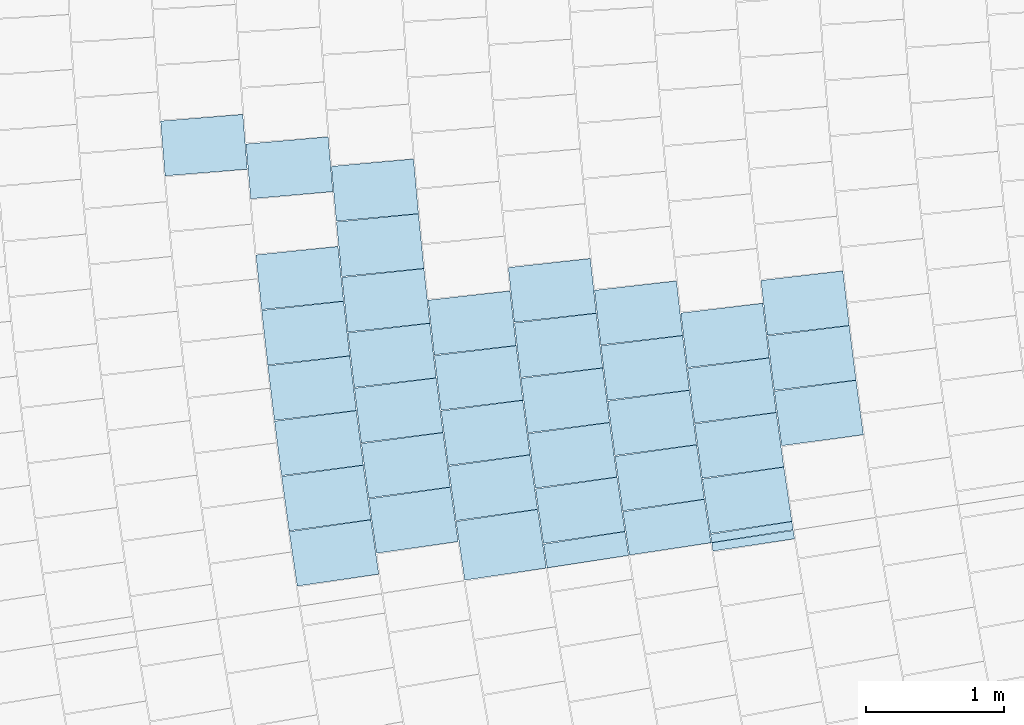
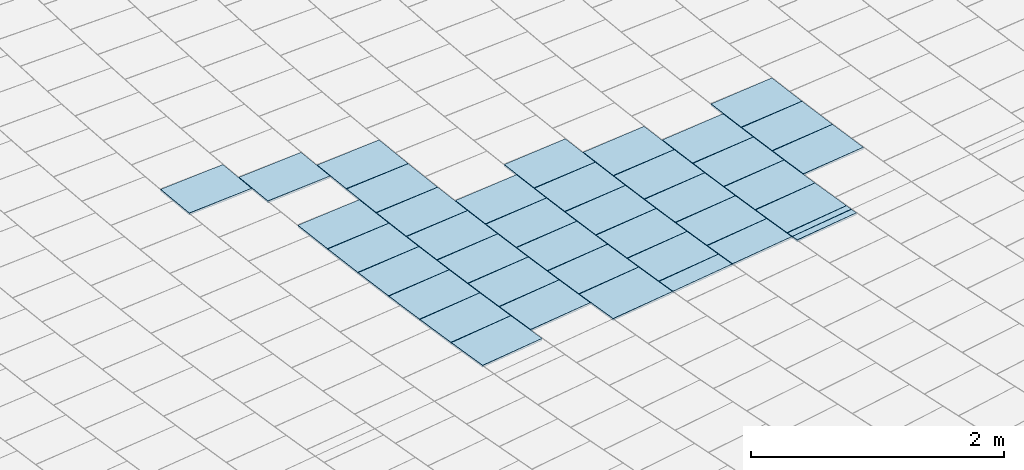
# One storey, part 80 of 438: 40 slabs.
"""IFC2X3 building model written with IfcOpenShell, lengths in millimetres."""

from ifc_helpers import new_model, entity, si_unit, converted_unit, derived_unit, direction, frame, frame_2d, origin, place, context, subcontext, project, spatial, polyline, rectangle, outline, extrude, material, layer, layer_set, layer_usage, type_object, element, save


model = new_model("IFC2X3")

# Units and contexts
model_context = context("Model", 3, precision=0.01, world=origin(), true_north=direction((6.123031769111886e-17, 1.0)))
body_context = subcontext(model_context, "Body", "Model", "MODEL_VIEW")
ifc_project = project(units=[si_unit("LENGTHUNIT", "METRE", prefix="MILLI"), si_unit("AREAUNIT", "SQUARE_METRE"), si_unit("VOLUMEUNIT", "CUBIC_METRE"), converted_unit("PLANEANGLEUNIT", "DEGREE", entity("IfcRatioMeasure", 0.017453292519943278), si_unit("PLANEANGLEUNIT", "RADIAN"), dimensions=[0, 0, 0, 0, 0, 0, 0]), si_unit("MASSUNIT", "GRAM", prefix="KILO"), derived_unit("MASSDENSITYUNIT", [(si_unit("MASSUNIT", "GRAM", prefix="KILO"), 1), (si_unit("LENGTHUNIT", "METRE"), -3)]), derived_unit("MOMENTOFINERTIAUNIT", [(si_unit("LENGTHUNIT", "METRE"), 4)]), si_unit("TIMEUNIT", "SECOND"), si_unit("FREQUENCYUNIT", "HERTZ"), si_unit("THERMODYNAMICTEMPERATUREUNIT", "DEGREE_CELSIUS"), derived_unit("THERMALTRANSMITTANCEUNIT", [(si_unit("MASSUNIT", "GRAM", prefix="KILO"), 1), (si_unit("THERMODYNAMICTEMPERATUREUNIT", "KELVIN"), -1), (si_unit("TIMEUNIT", "SECOND"), -3)]), derived_unit("THERMALCONDUCTANCEUNIT", [(si_unit("MASSUNIT", "GRAM", prefix="KILO"), 1), (si_unit("LENGTHUNIT", "METRE"), 1), (si_unit("THERMODYNAMICTEMPERATUREUNIT", "KELVIN"), -1), (si_unit("TIMEUNIT", "SECOND"), -3)]), derived_unit("VOLUMETRICFLOWRATEUNIT", [(si_unit("LENGTHUNIT", "METRE"), 3), (si_unit("TIMEUNIT", "SECOND"), -1)]), derived_unit("MASSFLOWRATEUNIT", [(si_unit("MASSUNIT", "GRAM", prefix="KILO"), 1), (si_unit("TIMEUNIT", "SECOND"), -1)]), derived_unit("ROTATIONALFREQUENCYUNIT", [(si_unit("TIMEUNIT", "SECOND"), -1)]), si_unit("ELECTRICCURRENTUNIT", "AMPERE"), si_unit("ELECTRICVOLTAGEUNIT", "VOLT"), si_unit("POWERUNIT", "WATT"), converted_unit("FORCEUNIT", "KIP", entity("IfcRatioMeasure", 2.088543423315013e-05), si_unit("FORCEUNIT", "NEWTON"), dimensions=[1, 1, -2, 0, 0, 0, 0]), si_unit("ILLUMINANCEUNIT", "LUX"), si_unit("LUMINOUSFLUXUNIT", "LUMEN"), si_unit("LUMINOUSINTENSITYUNIT", "CANDELA"), derived_unit("USERDEFINED", [(si_unit("MASSUNIT", "GRAM", prefix="KILO"), -1), (si_unit("LENGTHUNIT", "METRE"), -2), (si_unit("TIMEUNIT", "SECOND"), 3), (si_unit("LUMINOUSFLUXUNIT", "LUMEN"), 1)]), derived_unit("USERDEFINED", [(si_unit("MASSUNIT", "GRAM", prefix="KILO"), 1), (si_unit("LENGTHUNIT", "METRE"), 3), (si_unit("TIMEUNIT", "SECOND"), -3), (si_unit("ELECTRICCURRENTUNIT", "AMPERE"), -2)]), derived_unit("USERDEFINED", [(si_unit("LENGTHUNIT", "METRE"), 2), (si_unit("TIMEUNIT", "SECOND"), -2)]), derived_unit("SOUNDPOWERUNIT", [(si_unit("MASSUNIT", "GRAM", prefix="KILO"), 1), (si_unit("LENGTHUNIT", "METRE"), 2), (si_unit("TIMEUNIT", "SECOND"), -3)]), derived_unit("SOUNDPRESSUREUNIT", [(si_unit("MASSUNIT", "GRAM", prefix="KILO"), 1), (si_unit("LENGTHUNIT", "METRE"), -1), (si_unit("TIMEUNIT", "SECOND"), -2)]), derived_unit("LINEARVELOCITYUNIT", [(si_unit("LENGTHUNIT", "METRE"), 1), (si_unit("TIMEUNIT", "SECOND"), -1)]), si_unit("PRESSUREUNIT", "PASCAL"), derived_unit("USERDEFINED", [(si_unit("LENGTHUNIT", "METRE"), -2), (si_unit("MASSUNIT", "GRAM", prefix="KILO"), 1), (si_unit("TIMEUNIT", "SECOND"), -2)]), derived_unit("LINEARFORCEUNIT", [(si_unit("MASSUNIT", "GRAM", prefix="KILO"), 1), (si_unit("LENGTHUNIT", "METRE"), 1), (si_unit("TIMEUNIT", "SECOND"), -2), (si_unit("LENGTHUNIT", "METRE"), -1)]), derived_unit("PLANARFORCEUNIT", [(si_unit("MASSUNIT", "GRAM", prefix="KILO"), 1), (si_unit("LENGTHUNIT", "METRE"), 1), (si_unit("TIMEUNIT", "SECOND"), -2), (si_unit("LENGTHUNIT", "METRE"), -2)]), derived_unit("SPECIFICHEATCAPACITYUNIT", [(si_unit("LENGTHUNIT", "METRE"), 2), (si_unit("TIMEUNIT", "SECOND"), -2), (si_unit("THERMODYNAMICTEMPERATUREUNIT", "KELVIN"), -1)]), derived_unit("VAPORPERMEABILITYUNIT", [(si_unit("TIMEUNIT", "SECOND"), 1), (si_unit("LENGTHUNIT", "METRE"), -1)]), derived_unit("DYNAMICVISCOSITYUNIT", [(si_unit("MASSUNIT", "GRAM", prefix="KILO"), 1), (si_unit("LENGTHUNIT", "METRE"), -1), (si_unit("TIMEUNIT", "SECOND"), -1)]), derived_unit("THERMALEXPANSIONCOEFFICIENTUNIT", [(si_unit("THERMODYNAMICTEMPERATUREUNIT", "KELVIN"), -1)])], contexts=[model_context])

# Site, building, storey
site_placement = place(None, frame((0.0, 0.0, 0.0), z_axis=(0.0, 0.0, 1.0), x_axis=(0.8191520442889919, 0.5735764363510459, 0.0)))
site = spatial("IfcSite", under=ifc_project, at=site_placement, Name="Default", CompositionType="ELEMENT")
building_placement = place(site_placement, origin())
building = spatial("IfcBuilding", under=site, at=building_placement, CompositionType="ELEMENT")
storey_placement = place(building_placement, origin())
storey = spatial("IfcBuildingStorey", under=building, at=storey_placement, Name="PLAN", CompositionType="ELEMENT", Elevation=0.0)

# Slabs
ifc_material = material(Name="Paint-01")
ifc_layer = layer(ifc_material, 20.00000000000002)
ifc_layer_set = layer_set([ifc_layer], Name="Floor:Slab-179:1000")
ifc_layer_usage = layer_usage(ifc_layer_set, "AXIS3", "POSITIVE", 0.0)
slab_type = type_object("IfcSlabType", Name="Floor:Slab-179:1000", PredefinedType="FLOOR", material=ifc_layer_set)
slab_1_placement = place(storey_placement, origin())
element("IfcSlab", 1, at=slab_1_placement, inside=storey, type_object=slab_type, material=ifc_layer_usage, Name="Floor:Slab-179:1000", ObjectType="Floor:Slab-179:1000", PredefinedType="FLOOR", context=body_context, shape_type="SweptSolid", body=[
    extrude(outline(polyline([(-299.99999852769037, -30.948559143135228), (299.9999988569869, -30.948559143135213), (299.9999985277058, 30.948559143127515), (-299.99999885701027, 30.948559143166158), (-299.99999852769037, -30.948559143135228)])), frame((-80044.76287253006, -48380.83155727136, 520.0), z_axis=(0.0, 0.0, -1.0), x_axis=(0.8953786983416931, -0.44530549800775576, 0.0)), (0.0, 0.0, 1.0), 20.000000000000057),
])
slab_2_placement = place(storey_placement, origin())
element("IfcSlab", 2, at=slab_2_placement, inside=storey, type_object=slab_type, material=ifc_layer_usage, Name="Floor:Slab-179:1000", ObjectType="Floor:Slab-179:1000", PredefinedType="FLOOR", context=body_context, shape_type="SweptSolid", body=[
    extrude(outline(polyline([(-300.0, -200.00000294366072), (299.9999976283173, -200.00000294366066), (300.0, 200.00000294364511), (-299.9999976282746, 200.00000294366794), (-300.0, -200.00000294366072)])), frame((-80763.96085324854, -47119.79595773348, 520.0), z_axis=(0.0, 0.0, -1.0), x_axis=(0.8890271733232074, -0.4578544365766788, 0.0)), (0.0, 0.0, 1.0), 20.000000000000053),
])
slab_3_placement = place(storey_placement, origin())
element("IfcSlab", 3, at=slab_3_placement, inside=storey, type_object=slab_type, material=ifc_layer_usage, Name="Floor:Slab-179:1000", ObjectType="Floor:Slab-179:1000", PredefinedType="FLOOR", context=body_context, shape_type="SweptSolid", body=[
    extrude(outline(polyline([(-300.0, -200.00000294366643), (299.99999762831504, -200.00000294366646), (300.0, 200.00000294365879), (-299.99999762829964, 200.00000294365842), (-300.0, -200.00000294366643)])), frame((-80578.02261181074, -46762.64722861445, 520.0), z_axis=(0.0, 0.0, -1.0), x_axis=(0.884939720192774, -0.46570558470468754, 0.0)), (0.0, 0.0, 1.0), 20.000000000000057),
])
slab_4_placement = place(storey_placement, origin())
element("IfcSlab", 4, at=slab_4_placement, inside=storey, type_object=slab_type, material=ifc_layer_usage, Name="Floor:Slab-179:1000", ObjectType="Floor:Slab-179:1000", PredefinedType="FLOOR", context=body_context, shape_type="SweptSolid", body=[
    extrude(outline(polyline([(-300.0, -200.00000294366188), (299.9999976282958, -200.00000294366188), (300.0, 200.00000294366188), (-299.9999976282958, 200.00000294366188), (-300.0, -200.00000294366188)])), frame((-80196.69905841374, -46053.35700409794, 520.0), z_axis=(0.0, 0.0, -1.0), x_axis=(0.8765571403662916, -0.48129780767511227, 0.0)), (0.0, 0.0, 1.0), 20.000000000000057),
])
slab_5_placement = place(storey_placement, origin())
element("IfcSlab", 5, at=slab_5_placement, inside=storey, type_object=slab_type, material=ifc_layer_usage, Name="Floor:Slab-179:1000", ObjectType="Floor:Slab-179:1000", PredefinedType="FLOOR", context=body_context, shape_type="SweptSolid", body=[
    extrude(outline(polyline([(-300.0, -200.00000294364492), (299.9999976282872, -200.00000294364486), (300.0, 200.00000294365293), (-299.9999976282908, 200.0000029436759), (-300.0, -200.00000294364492)])), frame((-81372.78201643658, -46981.15106468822, 520.0), z_axis=(0.0, 0.0, -1.0), x_axis=(0.8905665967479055, -0.45485287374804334, 0.0)), (0.0, 0.0, 1.0), 20.000000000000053),
])
slab_6_placement = place(storey_placement, origin())
element("IfcSlab", 6, at=slab_6_placement, inside=storey, type_object=slab_type, material=ifc_layer_usage, Name="Floor:Slab-179:1000", ObjectType="Floor:Slab-179:1000", PredefinedType="FLOOR", context=body_context, shape_type="SweptSolid", body=[
    extrude(outline(polyline([(-300.0, -215.73772442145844), (299.9999975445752, -215.73772442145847), (300.0, 215.7377244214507), (-299.99999754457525, 215.7377244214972), (-300.0, -215.73772442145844)])), frame((-81561.3813098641, -47354.5817457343, 520.0), z_axis=(0.0, 0.0, -1.0), x_axis=(0.8945054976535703, -0.4470569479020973, 0.0)), (0.0, 0.0, 1.0), 20.000000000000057),
])
slab_7_placement = place(storey_placement, origin())
element("IfcSlab", 7, at=slab_7_placement, inside=storey, type_object=slab_type, material=ifc_layer_usage, Name="Floor:Slab-179:1000", ObjectType="Floor:Slab-179:1000", PredefinedType="FLOOR", context=body_context, shape_type="SweptSolid", body=[
    extrude(outline(polyline([(-300.0, -200.0000029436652), (299.9999976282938, -200.00000294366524), (300.0, 200.00000294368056), (-299.99999762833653, 200.00000294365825), (-300.0, -200.0000029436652)])), frame((-81188.08656777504, -46623.397421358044, 520.0), z_axis=(0.0, 0.0, -1.0), x_axis=(0.8865597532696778, -0.46261409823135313, 0.0)), (0.0, 0.0, 1.0), 20.000000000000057),
])
slab_8_placement = place(storey_placement, origin())
element("IfcSlab", 8, at=slab_8_placement, inside=storey, type_object=slab_type, material=ifc_layer_usage, Name="Floor:Slab-179:1000", ObjectType="Floor:Slab-179:1000", PredefinedType="FLOOR", context=body_context, shape_type="SweptSolid", body=[
    extrude(outline(polyline([(-300.0, -200.00000294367), (299.9999976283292, -200.00000294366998), (300.0, 200.00000294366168), (-299.99999762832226, 200.00000294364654), (-300.0, -200.00000294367)])), frame((-80809.35683233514, -45912.79786257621, 520.0), z_axis=(0.0, 0.0, -1.0), x_axis=(0.8783434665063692, -0.4780300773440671, 0.0)), (0.0, 0.0, 1.0), 20.000000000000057),
])
slab_9_placement = place(storey_placement, origin())
element("IfcSlab", 9, at=slab_9_placement, inside=storey, type_object=slab_type, material=ifc_layer_usage, Name="Floor:Slab-179:1000", ObjectType="Floor:Slab-179:1000", PredefinedType="FLOOR", context=body_context, shape_type="SweptSolid", body=[
    extrude(outline(polyline([(-300.0, -200.00000294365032), (299.99999762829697, -200.00000294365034), (300.0, 200.0000029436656), (-299.999997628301, 200.0000029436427), (-300.0, -200.00000294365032)])), frame((-81000.27339689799, -46267.27063085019, 520.0), z_axis=(0.0, 0.0, -1.0), x_axis=(0.8824852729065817, -0.4703400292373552, 0.0)), (0.0, 0.0, 1.0), 20.000000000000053),
])
slab_10_placement = place(storey_placement, origin())
element("IfcSlab", 10, at=slab_10_placement, inside=storey, type_object=slab_type, material=ifc_layer_usage, Name="Floor:Slab-179:1000", ObjectType="Floor:Slab-179:1000", PredefinedType="FLOOR", context=body_context, shape_type="SweptSolid", body=[
    extrude(outline(polyline([(-300.0, -200.00000294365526), (299.9999976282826, -200.0000029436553), (300.0, 200.00000294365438), (-299.9999976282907, 200.00000294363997), (-300.0, -200.00000294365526)])), frame((-81611.08765067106, -46127.63286458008, 520.0), z_axis=(0.0, 0.0, -1.0), x_axis=(0.8841321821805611, -0.46723686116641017, 0.0)), (0.0, 0.0, 1.0), 20.000000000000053),
])
slab_11_placement = place(storey_placement, origin())
element("IfcSlab", 11, at=slab_11_placement, inside=storey, type_object=slab_type, material=ifc_layer_usage, Name="Floor:Slab-179:1000", ObjectType="Floor:Slab-179:1000", PredefinedType="FLOOR", context=body_context, shape_type="SweptSolid", body=[
    extrude(outline(polyline([(-300.0, -200.00000294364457), (299.9999976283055, -200.00000294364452), (300.0, 200.0000029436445), (-299.99999762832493, 200.00000294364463), (-300.0, -200.00000294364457)])), frame((-81981.13625780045, -46842.71507963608, 520.0), z_axis=(0.0, 0.0, -1.0), x_axis=(0.8920561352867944, -0.4519246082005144, 0.0)), (0.0, 0.0, 1.0), 20.000000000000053),
])
slab_12_placement = place(storey_placement, origin())
element("IfcSlab", 12, at=slab_12_placement, inside=storey, type_object=slab_type, material=ifc_layer_usage, Name="Floor:Slab-179:1000", ObjectType="Floor:Slab-179:1000", PredefinedType="FLOOR", context=body_context, shape_type="SweptSolid", body=[
    extrude(outline(polyline([(-300.0, -200.00000294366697), (299.99999762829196, -200.00000294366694), (300.0, 200.00000294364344), (-299.9999976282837, 200.00000294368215), (-300.0, -200.00000294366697)])), frame((-81421.45383524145, -45772.51082410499, 520.0), z_axis=(0.0, 0.0, -1.0), x_axis=(0.8800715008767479, -0.47484118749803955, 0.0)), (0.0, 0.0, 1.0), 19.99999999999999),
])
slab_13_placement = place(storey_placement, origin())
element("IfcSlab", 13, at=slab_13_placement, inside=storey, type_object=slab_type, material=ifc_layer_usage, Name="Floor:Slab-179:1000", ObjectType="Floor:Slab-179:1000", PredefinedType="FLOOR", context=body_context, shape_type="SweptSolid", body=[
    extrude(outline(polyline([(-300.0, -200.00000294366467), (299.9999976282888, -200.00000294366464), (300.0, 200.00000294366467), (-299.999997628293, 200.00000294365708), (-300.0, -200.00000294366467)])), frame((-81033.0376427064, -45067.236829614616, 520.0), z_axis=(0.0, 0.0, -1.0), x_axis=(0.8717542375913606, -0.4899434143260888, 0.0)), (0.0, 0.0, 1.0), 19.99999999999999),
])
slab_14_placement = place(storey_placement, origin())
element("IfcSlab", 14, at=slab_14_placement, inside=storey, type_object=slab_type, material=ifc_layer_usage, Name="Floor:Slab-179:1000", ObjectType="Floor:Slab-179:1000", PredefinedType="FLOOR", context=body_context, shape_type="SweptSolid", body=[
    extrude(outline(polyline([(-300.0, -200.00000294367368), (299.99999762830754, -200.00000294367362), (300.0, 200.0000029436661), (-299.99999762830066, 200.0000029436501), (-300.0, -200.00000294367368)])), frame((-81228.76572605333, -45419.03672298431, 520.0), z_axis=(0.0, 0.0, -1.0), x_axis=(0.8759454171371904, -0.4824102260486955, 0.0)), (0.0, 0.0, 1.0), 20.000000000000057),
])
slab_15_placement = place(storey_placement, origin())
element("IfcSlab", 15, at=slab_15_placement, inside=storey, type_object=slab_type, material=ifc_layer_usage, Name="Floor:Slab-179:1000", ObjectType="Floor:Slab-179:1000", PredefinedType="FLOOR", context=body_context, shape_type="SweptSolid", body=[
    extrude(outline(polyline([(-300.0, -200.00000294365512), (299.9999976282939, -200.00000294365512), (300.0, 200.00000294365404), (-299.9999976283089, 200.0000029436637), (-300.0, -200.00000294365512)])), frame((-80834.28413071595, -44717.1372879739, 520.0), z_axis=(0.0, 0.0, -1.0), x_axis=(0.8674982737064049, -0.4974401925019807, 0.0)), (0.0, 0.0, 1.0), 20.000000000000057),
])
slab_16_placement = place(storey_placement, origin())
element("IfcSlab", 16, at=slab_16_placement, inside=storey, type_object=slab_type, material=ifc_layer_usage, Name="Floor:Slab-179:1000", ObjectType="Floor:Slab-179:1000", PredefinedType="FLOOR", context=body_context, shape_type="SweptSolid", body=[
    extrude(outline(polyline([(-300.0, -200.000002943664), (299.99999762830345, -200.000002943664), (300.0, 200.000002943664), (-299.9999976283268, 200.00000294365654), (-300.0, -200.000002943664)])), frame((-81797.65307972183, -46484.37645354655, 520.0), z_axis=(0.0, 0.0, -1.0), x_axis=(0.8881271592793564, -0.4595978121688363, 0.0)), (0.0, 0.0, 1.0), 20.000000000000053),
])
slab_17_placement = place(storey_placement, origin())
element("IfcSlab", 17, at=slab_17_placement, inside=storey, type_object=slab_type, material=ifc_layer_usage, Name="Floor:Slab-179:1000", ObjectType="Floor:Slab-179:1000", PredefinedType="FLOOR", context=body_context, shape_type="SweptSolid", body=[
    extrude(outline(polyline([(-300.0, -200.00000294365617), (299.99999762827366, -200.00000294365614), (300.0, 200.00000294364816), (-299.99999762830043, 200.00000294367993), (-300.0, -200.00000294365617)])), frame((-79544.84355866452, -47397.7537906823, 520.0), z_axis=(0.0, 0.0, -1.0), x_axis=(0.8857888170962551, -0.4640885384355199, 0.0)), (0.0, 0.0, 1.0), 20.000000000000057),
])
slab_18_placement = place(storey_placement, origin())
element("IfcSlab", 18, at=slab_18_placement, inside=storey, type_object=slab_type, material=ifc_layer_usage, Name="Floor:Slab-179:1000", ObjectType="Floor:Slab-179:1000", PredefinedType="FLOOR", context=body_context, shape_type="SweptSolid", body=[
    extrude(outline(polyline([(-300.0, -200.00000294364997), (299.99999762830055, -200.00000294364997), (300.0, 200.00000294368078), (-299.9999976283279, 200.00000294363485), (-300.0, -200.00000294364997)])), frame((-79121.17096761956, -47894.194047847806, 520.0), z_axis=(0.0, 0.0, -1.0), x_axis=(0.8883584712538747, -0.459150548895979, 0.0)), (0.0, 0.0, 1.0), 20.000000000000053),
])
slab_19_placement = place(storey_placement, origin())
element("IfcSlab", 19, at=slab_19_placement, inside=storey, type_object=slab_type, material=ifc_layer_usage, Name="Floor:Slab-179:1000", ObjectType="Floor:Slab-179:1000", PredefinedType="FLOOR", context=body_context, shape_type="SweptSolid", body=[
    extrude(outline(polyline([(-300.0, -200.0000029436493), (299.99999762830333, -200.00000294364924), (300.0, 200.00000294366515), (-299.99999762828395, 200.00000294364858), (-300.0, -200.0000029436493)])), frame((-79777.03806132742, -46547.30804186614, 520.0), z_axis=(0.0, 0.0, -1.0), x_axis=(0.8790224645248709, -0.47678035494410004, 0.0)), (0.0, 0.0, 1.0), 20.000000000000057),
])
slab_20_placement = place(storey_placement, origin())
element("IfcSlab", 20, at=slab_20_placement, inside=storey, type_object=slab_type, material=ifc_layer_usage, Name="Floor:Slab-179:1000", ObjectType="Floor:Slab-179:1000", PredefinedType="FLOOR", context=body_context, shape_type="SweptSolid", body=[
    extrude(outline(polyline([(-300.0, -200.00000294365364), (299.99999762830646, -200.00000294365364), (300.0, 200.00000294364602), (-299.9999976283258, 200.00000294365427), (-300.0, -200.00000294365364)])), frame((-78744.71256373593, -47182.00731968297, 520.0), z_axis=(0.0, 0.0, -1.0), x_axis=(0.8797389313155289, -0.47545705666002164, 0.0)), (0.0, 0.0, 1.0), 19.99999999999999),
])
slab_21_placement = place(storey_placement, origin())
element("IfcSlab", 21, at=slab_21_placement, inside=storey, type_object=slab_type, material=ifc_layer_usage, Name="Floor:Slab-179:1000", ObjectType="Floor:Slab-179:1000", PredefinedType="FLOOR", context=body_context, shape_type="SweptSolid", body=[
    extrude(outline(polyline([(-300.0, -200.0000029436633), (299.9999976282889, -200.0000029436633), (300.0, 200.0000029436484), (-299.99999762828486, 200.00000294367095), (-300.0, -200.0000029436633)])), frame((-78934.58378939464, -47537.2327180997, 520.0), z_axis=(0.0, 0.0, -1.0), x_axis=(0.8840862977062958, -0.46732367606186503, 0.0)), (0.0, 0.0, 1.0), 20.000000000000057),
])
slab_22_placement = place(storey_placement, origin())
element("IfcSlab", 22, at=slab_22_placement, inside=storey, type_object=slab_type, material=ifc_layer_usage, Name="Floor:Slab-179:1000", ObjectType="Floor:Slab-179:1000", PredefinedType="FLOOR", context=body_context, shape_type="SweptSolid", body=[
    extrude(outline(polyline([(-300.0, -200.00000294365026), (299.9999976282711, -200.00000294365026), (300.0, 200.00000294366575), (-299.999997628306, 200.00000294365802), (-300.0, -200.00000294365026)])), frame((-79912.13501999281, -48114.57398447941, 520.0), z_axis=(0.0, 0.0, -1.0), x_axis=(0.8940835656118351, -0.4479001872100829, 0.0)), (0.0, 0.0, 1.0), 20.000000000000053),
])
slab_23_placement = place(storey_placement, origin())
element("IfcSlab", 23, at=slab_23_placement, inside=storey, type_object=slab_type, material=ifc_layer_usage, Name="Floor:Slab-179:1000", ObjectType="Floor:Slab-179:1000", PredefinedType="FLOOR", context=body_context, shape_type="SweptSolid", body=[
    extrude(outline(polyline([(-299.9999988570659, -30.956220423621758), (299.99999852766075, -30.956220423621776), (299.99999885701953, 30.956220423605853), (-299.99999852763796, 30.956220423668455), (-299.9999988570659, -30.956220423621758)])), frame((-80016.53904183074, -48323.63813225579, 520.0), z_axis=(0.0, 0.0, -1.0), x_axis=(0.8981201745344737, -0.43975010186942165, 0.0)), (0.0, 0.0, 1.0), 19.999999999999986),
])
slab_24_placement = place(storey_placement, origin())
element("IfcSlab", 24, at=slab_24_placement, inside=storey, type_object=slab_type, material=ifc_layer_usage, Name="Floor:Slab-179:1000", ObjectType="Floor:Slab-179:1000", PredefinedType="FLOOR", context=body_context, shape_type="SweptSolid", body=[
    extrude(outline(polyline([(-300.0, -200.00000294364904), (299.9999976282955, -200.000002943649), (300.0, 200.0000029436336), (-299.9999976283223, 200.0000029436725), (-300.0, -200.00000294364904)])), frame((-79730.11916701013, -47755.328754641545, 520.0), z_axis=(0.0, 0.0, -1.0), x_axis=(0.8899729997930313, -0.45601322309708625, 0.0)), (0.0, 0.0, 1.0), 19.99999999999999),
])
slab_25_placement = place(storey_placement, origin())
element("IfcSlab", 25, at=slab_25_placement, inside=storey, type_object=slab_type, material=ifc_layer_usage, Name="Floor:Slab-179:1000", ObjectType="Floor:Slab-179:1000", PredefinedType="FLOOR", context=body_context, shape_type="SweptSolid", body=[
    extrude(outline(polyline([(-300.0, -200.00000294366), (299.9999976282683, -200.00000294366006), (300.0, 200.00000294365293), (-299.9999976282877, 200.00000294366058), (-300.0, -200.00000294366)])), frame((-79356.32352060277, -47041.878670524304, 520.0), z_axis=(0.0, 0.0, -1.0), x_axis=(0.8815313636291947, -0.47212546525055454, 0.0)), (0.0, 0.0, 1.0), 20.000000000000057),
])
slab_26_placement = place(storey_placement, origin())
element("IfcSlab", 26, at=slab_26_placement, inside=storey, type_object=slab_type, material=ifc_layer_usage, Name="Floor:Slab-179:1000", ObjectType="Floor:Slab-179:1000", PredefinedType="FLOOR", context=body_context, shape_type="SweptSolid", body=[
    extrude(outline(polyline([(-300.0, -159.83571271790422), (299.9999978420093, -159.83571271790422), (300.0, 159.83571271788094), (-299.9999978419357, 159.83571271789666), (-300.0, -159.83571271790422)])), frame((-80501.57636352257, -47940.702927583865, 520.0), z_axis=(0.0, 0.0, -1.0), x_axis=(0.8955627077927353, -0.44493531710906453, 0.0)), (0.0, 0.0, 1.0), 20.000000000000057),
])
slab_27_placement = place(storey_placement, origin())
element("IfcSlab", 27, at=slab_27_placement, inside=storey, type_object=slab_type, material=ifc_layer_usage, Name="Floor:Slab-179:1000", ObjectType="Floor:Slab-179:1000", PredefinedType="FLOOR", context=body_context, shape_type="SweptSolid", body=[
    extrude(outline(polyline([(-300.0, -200.00000294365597), (299.99999762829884, -200.00000294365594), (300.0, 200.00000294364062), (-299.99999762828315, 200.00000294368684), (-300.0, -200.00000294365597)])), frame((-80338.66110267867, -47616.84805389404, 520.0), z_axis=(0.0, 0.0, -1.0), x_axis=(0.8915349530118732, -0.45295190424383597, 0.0)), (0.0, 0.0, 1.0), 20.000000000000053),
])
slab_28_placement = place(storey_placement, origin())
element("IfcSlab", 28, at=slab_28_placement, inside=storey, type_object=slab_type, material=ifc_layer_usage, Name="Floor:Slab-179:1000", ObjectType="Floor:Slab-179:1000", PredefinedType="FLOOR", context=body_context, shape_type="SweptSolid", body=[
    extrude(outline(polyline([(-300.0, -200.0000029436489), (299.9999976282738, -200.00000294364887), (300.0, 200.00000294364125), (-299.99999762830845, 200.00000294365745), (-300.0, -200.0000029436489)])), frame((-79967.44175663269, -46902.13702773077, 520.0), z_axis=(0.0, 0.0, -1.0), x_axis=(0.8832644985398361, -0.46887506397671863, 0.0)), (0.0, 0.0, 1.0), 19.999999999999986),
])
slab_29_placement = place(storey_placement, origin())
element("IfcSlab", 29, at=slab_29_placement, inside=storey, type_object=slab_type, material=ifc_layer_usage, Name="Floor:Slab-179:1000", ObjectType="Floor:Slab-179:1000", PredefinedType="FLOOR", context=body_context, shape_type="SweptSolid", body=[
    extrude(outline(polyline([(-300.0, -200.00000294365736), (299.9999976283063, -200.00000294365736), (300.0, 200.00000294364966), (-299.9999976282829, 200.00000294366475), (-300.0, -200.00000294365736)])), frame((-80154.65445990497, -47258.659930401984, 520.0), z_axis=(0.0, 0.0, -1.0), x_axis=(0.8874354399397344, -0.4609320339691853, 0.0)), (0.0, 0.0, 1.0), 20.000000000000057),
])
slab_30_placement = place(storey_placement, origin())
element("IfcSlab", 30, at=slab_30_placement, inside=storey, type_object=slab_type, material=ifc_layer_usage, Name="Floor:Slab-179:1000", ObjectType="Floor:Slab-179:1000", PredefinedType="FLOOR", context=body_context, shape_type="SweptSolid", body=[
    extrude(outline(polyline([(-299.99999915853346, -87.62464155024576), (299.9999982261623, -87.62464155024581), (299.9999991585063, 87.62464155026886), (-299.9999982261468, 87.62464155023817), (-299.99999915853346, -87.62464155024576)])), frame((-81076.64244536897, -47738.16085192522, 520.0), z_axis=(0.0, 0.0, -1.0), x_axis=(0.8969928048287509, -0.44204514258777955, 0.0)), (0.0, 0.0, 1.0), 19.99999999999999),
])
slab_31_placement = place(storey_placement, origin())
element("IfcSlab", 31, at=slab_31_placement, inside=storey, type_object=slab_type, material=ifc_layer_usage, Name="Floor:Slab-179:1000", ObjectType="Floor:Slab-179:1000", PredefinedType="FLOOR", context=body_context, shape_type="SweptSolid", body=[
    extrude(outline(polyline([(-300.0, -200.00000294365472), (299.9999976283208, -200.00000294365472), (300.0, 200.0000029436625), (-299.9999976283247, 200.000002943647), (-300.0, -200.00000294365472)])), frame((-80946.73056500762, -47478.57649901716, 520.0), z_axis=(0.0, 0.0, -1.0), x_axis=(0.8930449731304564, -0.4499674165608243, 0.0)), (0.0, 0.0, 1.0), 20.000000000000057),
])
slab_32_placement = place(storey_placement, origin())
element("IfcSlab", 32, at=slab_32_placement, inside=storey, type_object=slab_type, material=ifc_layer_usage, Name="Floor:Slab-179:1000", ObjectType="Floor:Slab-179:1000", PredefinedType="FLOOR", context=body_context, shape_type="SweptSolid", body=[
    extrude(outline(polyline([(-300.0, -200.00000294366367), (299.99999762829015, -200.00000294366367), (300.0, 200.00000294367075), (-299.9999976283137, 200.0000029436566), (-300.0, -200.00000294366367)])), frame((-80388.93040854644, -46407.158293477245, 520.0), z_axis=(0.0, 0.0, -1.0), x_axis=(0.880782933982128, -0.47352024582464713, 0.0)), (0.0, 0.0, 1.0), 19.99999999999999),
])
slab_33_placement = place(storey_placement, origin())
element("IfcSlab", 33, at=slab_33_placement, inside=storey, type_object=slab_type, material=ifc_layer_usage, Name="Floor:Slab-179:1000", ObjectType="Floor:Slab-179:1000", PredefinedType="FLOOR", context=body_context, shape_type="SweptSolid", body=[
    extrude(outline(polyline([(-299.99999762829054, -200.00000294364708), (300.0, -200.00000294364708), (299.99999762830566, 200.00000294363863), (-300.0, 200.00000294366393), (-299.99999762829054, -200.00000294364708)])), frame((-81648.27562898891, -44927.78864403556, 520.0), z_axis=(0.0, 0.0, -1.0), x_axis=(0.8736108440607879, -0.48662520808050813, 0.0)), (0.0, 0.0, 1.0), 19.999999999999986),
])
slab_34_placement = place(storey_placement, origin())
element("IfcSlab", 34, at=slab_34_placement, inside=storey, type_object=slab_type, material=ifc_layer_usage, Name="Floor:Slab-179:1000", ObjectType="Floor:Slab-179:1000", PredefinedType="FLOOR", context=body_context, shape_type="SweptSolid", body=[
    extrude(rectangle(XDim=599.9991874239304, YDim=399.99946590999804, at=frame_2d((2.1884716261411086e-12, 3.751665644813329e-12), x_axis=(1.0, 0.0))), frame((-81250.48887712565, -44228.40271398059, 520.0), z_axis=(0.0, 0.0, -1.0), x_axis=(0.8660254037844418, -0.4999999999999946, 0.0)), (0.0, 0.0, 1.0), 20.000000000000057),
])
slab_35_placement = place(storey_placement, origin())
element("IfcSlab", 35, at=slab_35_placement, inside=storey, type_object=slab_type, material=ifc_layer_usage, Name="Floor:Slab-179:1000", ObjectType="Floor:Slab-179:1000", PredefinedType="FLOOR", context=body_context, shape_type="SweptSolid", body=[
    extrude(outline(polyline([(-299.9999976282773, -200.00000294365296), (300.0, -200.00000294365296), (299.99999762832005, 200.00000294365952), (-300.0, 200.0000029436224), (-299.9999976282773, -200.00000294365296)])), frame((-82034.05405641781, -45634.433511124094, 520.0), z_axis=(0.0, 0.0, -1.0), x_axis=(0.8817659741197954, -0.47168714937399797, 0.0)), (0.0, 0.0, 1.0), 20.000000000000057),
])
slab_36_placement = place(storey_placement, origin())
element("IfcSlab", 36, at=slab_36_placement, inside=storey, type_object=slab_type, material=ifc_layer_usage, Name="Floor:Slab-179:1000", ObjectType="Floor:Slab-179:1000", PredefinedType="FLOOR", context=body_context, shape_type="SweptSolid", body=[
    extrude(outline(polyline([(-299.99999762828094, -200.00000294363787), (300.0, -200.00000294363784), (299.99999762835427, 200.00000294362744), (-300.0, 200.00000294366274), (-299.99999762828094, -200.00000294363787)])), frame((-81842.66818251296, -45280.29035971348, 520.0), z_axis=(0.0, 0.0, -1.0), x_axis=(0.8777201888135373, -0.4791735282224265, 0.0)), (0.0, 0.0, 1.0), 19.99999999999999),
])
slab_37_placement = place(storey_placement, origin())
element("IfcSlab", 37, at=slab_37_placement, inside=storey, type_object=slab_type, material=ifc_layer_usage, Name="Floor:Slab-179:1000", ObjectType="Floor:Slab-179:1000", PredefinedType="FLOOR", context=body_context, shape_type="SweptSolid", body=[
    extrude(outline(polyline([(-299.99999762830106, -200.0000029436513), (300.0, -200.0000029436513), (299.99999762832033, 200.00000294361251), (-300.0, 200.0000029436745), (-299.99999762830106, -200.0000029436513)])), frame((-82590.03410441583, -46706.45454649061, 520.0), z_axis=(0.0, 0.0, -1.0), x_axis=(0.8935190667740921, -0.44902525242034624, 0.0)), (0.0, 0.0, 1.0), 20.000000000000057),
])
slab_38_placement = place(storey_placement, origin())
element("IfcSlab", 38, at=slab_38_placement, inside=storey, type_object=slab_type, material=ifc_layer_usage, Name="Floor:Slab-179:1000", ObjectType="Floor:Slab-179:1000", PredefinedType="FLOOR", context=body_context, shape_type="SweptSolid", body=[
    extrude(outline(polyline([(-299.9999976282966, -200.00000294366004), (300.0, -200.00000294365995), (299.9999976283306, 200.00000294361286), (-300.0, 200.00000294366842), (-299.9999976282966, -200.00000294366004)])), frame((-82222.41939163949, -45990.19245325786, 520.0), z_axis=(0.0, 0.0, -1.0), x_axis=(0.8857479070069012, -0.4641666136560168, 0.0)), (0.0, 0.0, 1.0), 20.000000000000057),
])
slab_39_placement = place(storey_placement, origin())
element("IfcSlab", 39, at=slab_39_placement, inside=storey, type_object=slab_type, material=ifc_layer_usage, Name="Floor:Slab-179:1000", ObjectType="Floor:Slab-179:1000", PredefinedType="FLOOR", context=body_context, shape_type="SweptSolid", body=[
    extrude(outline(polyline([(-299.99999762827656, -200.00000294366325), (300.0, -200.00000294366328), (299.99999762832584, 200.00000294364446), (-300.0, 200.0000029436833), (-299.99999762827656, -200.00000294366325)])), frame((-81664.8415905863, -43737.12056934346, 520.0), z_axis=(0.0, 0.0, -1.0), x_axis=(0.8629247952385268, -0.5053323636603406, 0.0)), (0.0, 0.0, 1.0), 19.999999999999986),
])
slab_40_placement = place(storey_placement, origin())
element("IfcSlab", 40, at=slab_40_placement, inside=storey, type_object=slab_type, material=ifc_layer_usage, Name="Floor:Slab-179:1000", ObjectType="Floor:Slab-179:1000", PredefinedType="FLOOR", context=body_context, shape_type="SweptSolid", body=[
    extrude(outline(polyline([(-299.99999762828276, -200.00000294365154), (300.0, -200.0000029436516), (299.99999762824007, 200.00000294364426), (-300.0, 200.00000294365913), (-299.99999762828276, -200.00000294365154)])), frame((-82407.75054784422, -46347.54142409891, 520.0), z_axis=(0.0, 0.0, -1.0), x_axis=(0.8896656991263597, -0.45661246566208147, 0.0)), (0.0, 0.0, 1.0), 20.000000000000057),
])

save(model, "model.ifc")
